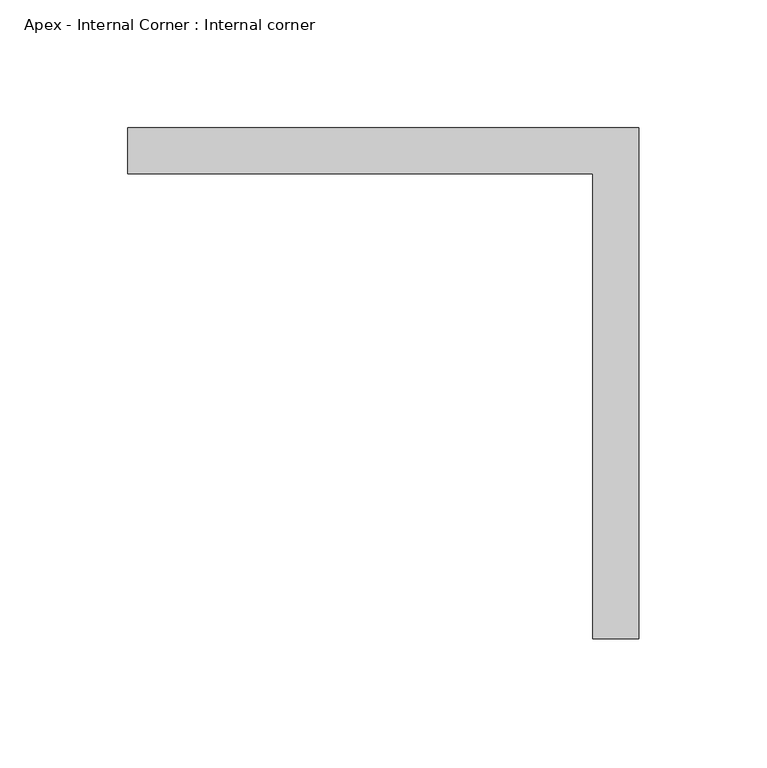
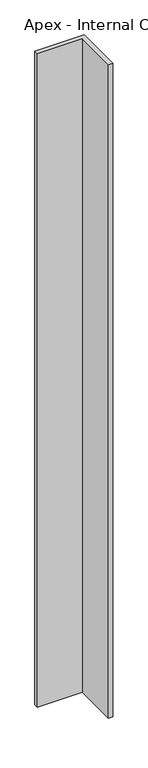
"""IFC4 building model written with IfcOpenShell, lengths in millimetres: furniture geometry, Apex - Internal Corner : Internal corner."""

from ifc_helpers import new_model, si_unit, origin, origin_with_axes, place, context, project, spatial, polyline, outline, extrude, source, transform, mapped, element, save


def apex_internal_corner_internal_corner_cde0c720(model_context):
    return source(origin(), model_context, "Body", "SweptSolid", [
        extrude(outline(polyline([(200.0, 0.0), (200.0, -18.0), (200.0, -200.0), (182.0, -200.0), (182.0, -18.0), (0.0, -18.0), (0.0, 0.0), (200.0, 0.0)])), origin_with_axes(), (0.0, 0.0, 1.0), 2800.0),
    ])


if __name__ == "__main__":
    model = new_model("IFC4")
    model_context = context("Model", 3, world=origin())
    ifc_project = project(units=[si_unit("LENGTHUNIT", "METRE", prefix="MILLI")], contexts=[model_context])
    site = spatial("IfcSite", under=ifc_project)
    building = spatial("IfcBuilding", under=site)
    placement = place(None, origin())
    apex_internal_corner_internal_corner_shape = apex_internal_corner_internal_corner_cde0c720(model_context)
    element("IfcFurniture", 1, ObjectType="Apex - Internal Corner : Internal corner", at=placement, inside=building, context=model_context, shape_type="MappedRepresentation", body=[
        mapped(apex_internal_corner_internal_corner_shape, transform((0.0, 0.0, 0.0), x_axis=(1.0, 0.0, 0.0), y_axis=(0.0, 1.0, 0.0), z_axis=(0.0, 0.0, 1.0))),
    ])
    save(model, "model.ifc")
